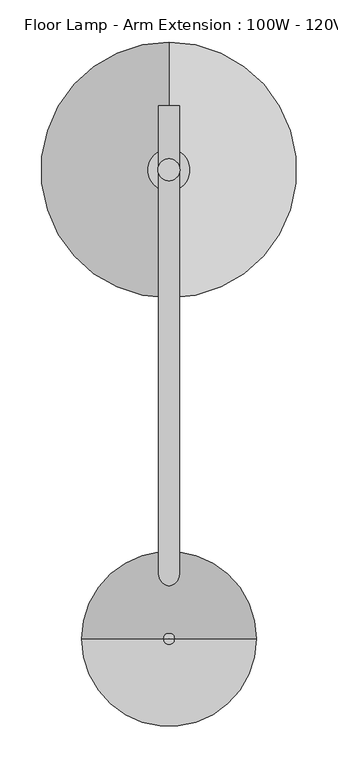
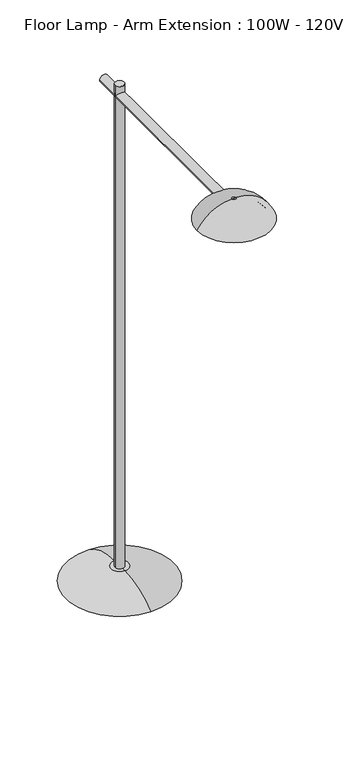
"""IFC4 building model written with IfcOpenShell, lengths in millimetres: light fixture geometry, Floor Lamp - Arm Extension : 100W - 120V."""

from ifc_helpers import new_model, si_unit, point, frame, frame_2d, origin, origin_2d, place, context, project, spatial, polyline, circle_curve, ellipse_curve, trimmed, segment, composite_curve, outline, extrude, source, transform, mapped, element, save
from ifc_brep_helpers import plane_surface, revolved_surface, advanced_brep


def floor_lamp_arm_extension_100w_120v_fe5062a9(model_context):
    return source(origin(), model_context, "Body", "SolidModel", [
        advanced_brep(
        [(7.0939984, -558.8, 1482.1060064), (104.3960859, -558.8, 1422.4), (-104.0792783, -558.8, 1422.4), (-6.7771908, -558.8, 1482.1060064), (0.9521538, -558.8, 1482.1060064), (-0.6353462, -558.8, 1482.1060064), (0.9521538, -558.8, 1466.2310064), (-0.6353462, -558.8, 1466.2310064), (88.460777, -558.8, 1422.4), (-88.1439694, -558.8, 1422.4)],
        [
            (0, 1, circle_curve(frame((7.0939984, -558.8, 1372.9670419), z_axis=(0.0, 1.0, 0.0), x_axis=(1.0, 0.0, 0.0)), 109.1389645)),
            (1, 2, circle_curve(frame((0.1584038, -558.8, 1422.4), z_axis=(0.0, 0.0, 1.0), x_axis=(-1.0, 0.0, 0.0)), 104.2376821)),
            (2, 3, circle_curve(frame((-6.7771908, -558.8, 1372.9670419), z_axis=(0.0, 1.0, 0.0), x_axis=(-1.0, 0.0, 0.0)), 109.1389645)),
            (3, 0, circle_curve(frame((0.1584038, -558.8, 1482.1060064), z_axis=(0.0, 0.0, -1.0), x_axis=(-1.0, 0.0, 0.0)), 6.9355946)),
            (2, 1, circle_curve(frame((0.1584038, -558.8, 1422.4), z_axis=(0.0, 0.0, 1.0), x_axis=(-1.0, 0.0, 0.0)), 104.2376821)),
            (0, 3, circle_curve(frame((0.1584038, -558.8, 1482.1060064), z_axis=(0.0, 0.0, -1.0), x_axis=(-1.0, 0.0, 0.0)), 6.9355946)),
            (4, 0),
            (3, 5),
            (5, 4, circle_curve(frame((0.1584038, -558.8, 1482.1060064), z_axis=(0.0, 0.0, -1.0), x_axis=(-1.0, 0.0, 0.0)), 0.79375)),
            (4, 5, circle_curve(frame((0.1584038, -558.8, 1482.1060064), z_axis=(0.0, 0.0, -1.0), x_axis=(-1.0, 0.0, 0.0)), 0.79375)),
            (6, 4),
            (5, 7),
            (7, 6, circle_curve(frame((0.1584038, -558.8, 1466.2310064), z_axis=(0.0, 0.0, -1.0), x_axis=(-1.0, 0.0, 0.0)), 0.79375)),
            (6, 7, circle_curve(frame((0.1584038, -558.8, 1466.2310064), z_axis=(0.0, 0.0, -1.0), x_axis=(-1.0, 0.0, 0.0)), 0.79375)),
            (8, 6, circle_curve(frame((6.0116106, -558.8, 1367.0612089), z_axis=(0.0, -1.0, 0.0), x_axis=(1.0, 0.0, 0.0)), 99.2987756)),
            (7, 9, circle_curve(frame((-5.6948029, -558.8, 1367.0612089), z_axis=(0.0, -1.0, 0.0), x_axis=(-1.0, 0.0, 0.0)), 99.2987756)),
            (9, 8, circle_curve(frame((0.1584038, -558.8, 1422.4), z_axis=(0.0, 0.0, -1.0), x_axis=(-1.0, 0.0, 0.0)), 88.3023732)),
            (8, 9, circle_curve(frame((0.1584038, -558.8, 1422.4), z_axis=(0.0, 0.0, -1.0), x_axis=(-1.0, 0.0, 0.0)), 88.3023732)),
            (1, 8),
            (9, 2),
        ],
        [
            revolved_surface(trimmed(ellipse_curve(frame((-6.7771908, -558.8, 1372.9670419), z_axis=(0.0, 1.0, 0.0), x_axis=(-1.0, 0.0, 0.0)), 109.1389645, 109.1389645), [point((-104.0792783, -558.8, 1422.4))], [point((-6.7771908, -558.8, 1482.1060064))], True, "CARTESIAN"), (0.1584038, -558.8, 1422.4), (0.0, 0.0, 1.0)),
            plane_surface(frame((0.1584038, -558.8, 1482.1060064), z_axis=(0.0, 0.0, 1.0), x_axis=(-1.0, 0.0, 0.0))),
            revolved_surface(polyline([(-0.6353462, -558.8, 1482.1060064), (-0.6353462, -558.8, 1466.2310064)]), (0.1584038, -558.8, 1422.4), (0.0, 0.0, 1.0)),
            revolved_surface(trimmed(ellipse_curve(frame((-5.6948029, -558.8, 1367.0612089), z_axis=(0.0, -1.0, 0.0), x_axis=(-1.0, 0.0, 0.0)), 99.2987756, 99.2987756), [point((-0.6353462, -558.8, 1466.2310064))], [point((-88.1439694, -558.8, 1422.4))], True, "CARTESIAN"), (0.1584038, -558.8, 1422.4), (0.0, 0.0, 1.0)),
            plane_surface(frame((0.1584038, -558.8, 1422.4), z_axis=(0.0, 0.0, -1.0), x_axis=(-1.0, 0.0, 0.0))),
        ],
        [
            (0, [[1, 2, 3, 4]]),
            (0, [[-3, 5, -1, 6]]),
            (1, [[7, -4, 8, 9]]),
            (1, [[-8, -6, -7, 10]]),
            (2, [[11, -9, 12, 13]]),
            (2, [[-12, -10, -11, 14]]),
            (3, [[15, -13, 16, 17]]),
            (3, [[-16, -14, -15, 18]]),
            (4, [[19, -17, 20, -2]]),
            (4, [[-20, -18, -19, -5]]),
        ],
    ),
        extrude(outline(composite_curve([segment(trimmed(circle_curve(frame_2d((1454.15, 0.1584038)), 12.7), [point((1454.15, 12.8584038))], [point((1454.15, -12.5415962))], False, "CARTESIAN"), True, "CONTINUOUS"), segment(trimmed(circle_curve(frame_2d((1454.15, 0.1584038)), 12.7), [point((1454.15, -12.5415962))], [point((1454.15, 12.8584038))], False, "CARTESIAN"), True, "CONTINUOUS")], self_intersect=False)), frame((0.0, -558.8, 0.0), z_axis=(0.0, 1.0, 0.0), x_axis=(0.0, 0.0, 1.0)), (0.0, 0.0, 1.0), 635.0),
        extrude(outline(composite_curve([segment(trimmed(circle_curve(origin_2d(), 13.0517196), [point((-13.0517196, 0.0))], [point((13.0517196, 0.0))], False, "CARTESIAN"), True, "CONTINUOUS"), segment(trimmed(circle_curve(origin_2d(), 13.0517196), [point((13.0517196, 0.0))], [point((-13.0517196, 0.0))], False, "CARTESIAN"), True, "CONTINUOUS")], self_intersect=False)), frame((0.0, 0.0, 44.6381337), z_axis=(0.0, 0.0, 1.0), x_axis=(1.0, 0.0, 0.0)), (0.0, 0.0, 1.0), 1441.2618663),
        advanced_brep(
        [(0.0, 25.4, 44.971188), (0.0, 152.4, 0.0), (0.0, -152.4, 0.0), (0.0, -25.4, 44.971188), (0.0, 2.4670255, 44.971188), (0.0, -2.4670255, 44.971188), (0.0, 2.4670255, 0.0), (0.0, -2.4670255, 0.0)],
        [
            (0, 1, circle_curve(frame((0.0, 25.4, -156.8403335), z_axis=(-1.0, 0.0, 0.0), x_axis=(0.0, 1.0, 0.0)), 201.8115215)),
            (1, 2, circle_curve(frame((0.0, 0.0, 0.0), z_axis=(0.0, 0.0, 1.0), x_axis=(0.0, -1.0, 0.0)), 152.4)),
            (2, 3, circle_curve(frame((0.0, -25.4, -156.8403335), z_axis=(-1.0, 0.0, 0.0), x_axis=(0.0, -1.0, 0.0)), 201.8115215)),
            (3, 0, circle_curve(frame((0.0, 0.0, 44.971188), z_axis=(0.0, 0.0, -1.0), x_axis=(0.0, -1.0, 0.0)), 25.4)),
            (2, 1, circle_curve(frame((0.0, 0.0, 0.0), z_axis=(0.0, 0.0, 1.0), x_axis=(0.0, -1.0, 0.0)), 152.4)),
            (0, 3, circle_curve(frame((0.0, 0.0, 44.971188), z_axis=(0.0, 0.0, -1.0), x_axis=(0.0, -1.0, 0.0)), 25.4)),
            (4, 0),
            (3, 5),
            (5, 4, circle_curve(frame((0.0, 0.0, 44.971188), z_axis=(0.0, 0.0, -1.0), x_axis=(0.0, -1.0, 0.0)), 2.4670255)),
            (4, 5, circle_curve(frame((0.0, 0.0, 44.971188), z_axis=(0.0, 0.0, -1.0), x_axis=(0.0, -1.0, 0.0)), 2.4670255)),
            (6, 4),
            (5, 7),
            (7, 6, circle_curve(frame((0.0, 0.0, 0.0), z_axis=(0.0, 0.0, -1.0), x_axis=(0.0, -1.0, 0.0)), 2.4670255)),
            (6, 7, circle_curve(frame((0.0, 0.0, 0.0), z_axis=(0.0, 0.0, -1.0), x_axis=(0.0, -1.0, 0.0)), 2.4670255)),
            (1, 6),
            (7, 2),
        ],
        [
            revolved_surface(trimmed(ellipse_curve(frame((0.0, -25.4, -156.8403335), z_axis=(-1.0, 0.0, 0.0), x_axis=(0.0, -1.0, 0.0)), 201.8115215, 201.8115215), [point((0.0, -152.4, 0.0))], [point((0.0, -25.4, 44.971188))], True, "CARTESIAN"), (0.0, 0.0, 0.0), (0.0, 0.0, 1.0)),
            plane_surface(frame((0.0, 0.0, 44.971188), z_axis=(0.0, 0.0, 1.0), x_axis=(0.0, -1.0, 0.0))),
            revolved_surface(polyline([(0.0, -2.4670255, 44.971188), (0.0, -2.4670255, 0.0)]), (0.0, 0.0, 0.0), (0.0, 0.0, 1.0)),
            plane_surface(frame((0.0, 0.0, 0.0), z_axis=(0.0, 0.0, -1.0), x_axis=(0.0, -1.0, 0.0))),
        ],
        [
            (0, [[1, 2, 3, 4]]),
            (0, [[-3, 5, -1, 6]]),
            (1, [[7, -4, 8, 9]]),
            (1, [[-8, -6, -7, 10]]),
            (2, [[11, -9, 12, 13]]),
            (2, [[-12, -10, -11, 14]]),
            (3, [[15, -13, 16, -2]]),
            (3, [[-16, -14, -15, -5]]),
        ],
    ),
    ])


if __name__ == "__main__":
    model = new_model("IFC4")
    model_context = context("Model", 3, world=origin())
    ifc_project = project(units=[si_unit("LENGTHUNIT", "METRE", prefix="MILLI")], contexts=[model_context])
    site = spatial("IfcSite", under=ifc_project)
    building = spatial("IfcBuilding", under=site)
    placement = place(None, origin())
    floor_lamp_arm_extension_100w_120v_shape = floor_lamp_arm_extension_100w_120v_fe5062a9(model_context)
    element("IfcLightFixture", 1, ObjectType="Floor Lamp - Arm Extension : 100W - 120V", at=placement, inside=building, context=model_context, shape_type="MappedRepresentation", body=[
        mapped(floor_lamp_arm_extension_100w_120v_shape, transform((0.0, 0.0, 0.0), x_axis=(1.0, 0.0, 0.0), y_axis=(0.0, 1.0, 0.0), z_axis=(0.0, 0.0, 1.0))),
    ])
    save(model, "model.ifc")
